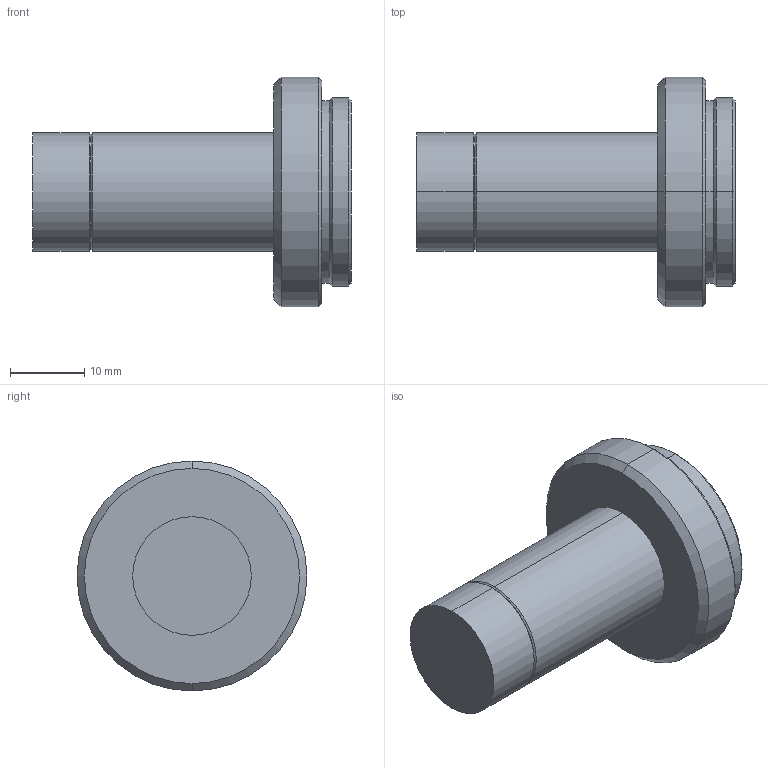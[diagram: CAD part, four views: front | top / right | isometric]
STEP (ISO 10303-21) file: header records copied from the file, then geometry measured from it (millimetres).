
FILE_DESCRIPTION (( 'STEP AP203' ), '1' );
FILE_NAME ('VS-TC2-40.STEP', '2020-02-14T05:53:48', ( '' ), ( '' ), 'SwSTEP 2.0', 'SolidWorks 2017', '' );
FILE_SCHEMA (( 'CONFIG_CONTROL_DESIGN' ));
Length unit declared in the file: millimetre
Products named in the file (1): VS-TC2-40
Bounding box: 43 x 31 x 31 mm (x, y, z)
Volume: 13361.7 mm3; surface area: 4038.8 mm2
Topology: 1 solids, 1 shells, 26 faces, 50 edges, 28 vertices
Faces by surface type: cone 12, cylinder 10, plane 4
Entity records: 731 total; most frequent: DIRECTION 132, CARTESIAN_POINT 105, ORIENTED_EDGE 100, AXIS2_PLACEMENT_3D 55, EDGE_CURVE 50, CIRCLE 28, VERTEX_POINT 28, EDGE_LOOP 28
